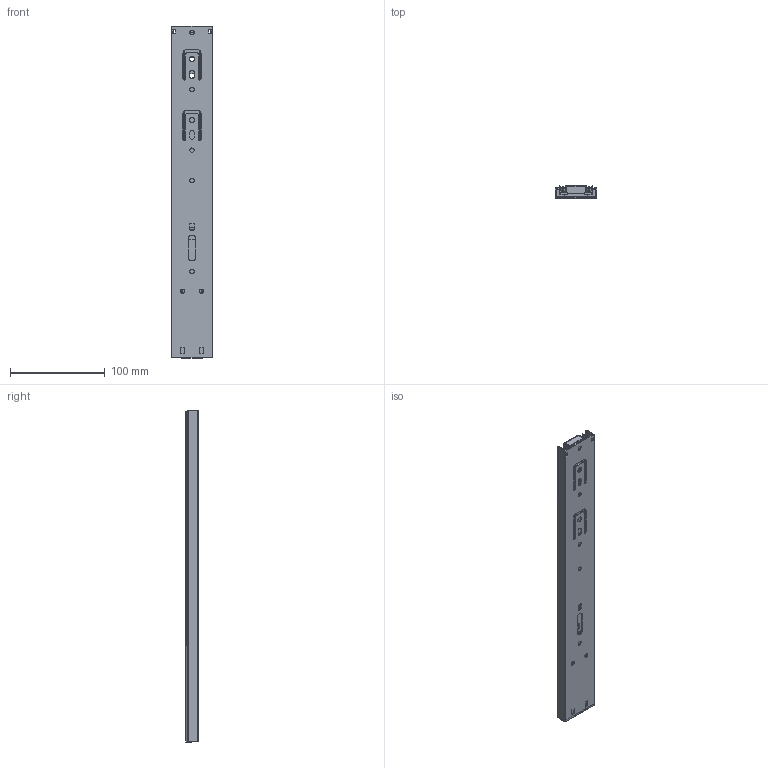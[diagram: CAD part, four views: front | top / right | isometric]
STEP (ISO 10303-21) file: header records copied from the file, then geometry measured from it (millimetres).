
FILE_DESCRIPTION(/* description */ (''),/* implementation_level */ '2;1');
FILE_NAME(/* name */ 'C:\Users\dmitruk\Documents\WORK\НАПРАВЛЯЮЩИЕ\Шариковые\Доводчик\h45 L-350 с доводчиком AKS.stp',/* time_stamp */ '2022-04-19T17:46:18+03:00',/* author */ ('dmitruk'),/* organization */ ('AKS'),/* preprocessor_version */ 'ST-DEVELOPER v16.5',/* originating_system */ 'Autodesk Inventor 2017',/* authorisation */ '');
FILE_SCHEMA (('AUTOMOTIVE_DESIGN { 1 0 10303 214 3 1 1 }'));
Length unit declared in the file: millimetre
Products named in the file (6): h45 L-350 с \X2\0434043E0432043E043404470438
043A043E043C\X0\ AKS; h45 L-350 AKS_11довод; h45 L-350 AKS_12довод; h45 L-350_13; h45 L-350 AKS_2довод; Доводчик
Assembly tree (5 placements, depth 2):
  h45 L-350 с \X2\0434043E0432043E043404470438
043A043E043C\X0\ AKS
    h45 L-350 AKS_11довод
    h45 L-350 AKS_12довод
    h45 L-350_13
    h45 L-350 AKS_2довод
    Доводчик
Bounding box: 44 x 13 x 350.41 mm (x, y, z)
Volume: 67276.8 mm3; surface area: 113332.9 mm2
Topology: 6 solids, 6 shells, 637 faces, 1857 edges, 1212 vertices
Faces by surface type: plane 376, cylinder 221, sphere 40
Full cylindrical faces by diameter (mm): 4.5 x11, 5.5 x2
Entity records: 21576 total; most frequent: CARTESIAN_POINT 3916, ORIENTED_EDGE 3682, DIRECTION 3656, EDGE_CURVE 1841, LINE 1278, VECTOR 1278, VERTEX_POINT 1209, AXIS2_PLACEMENT_3D 1189
